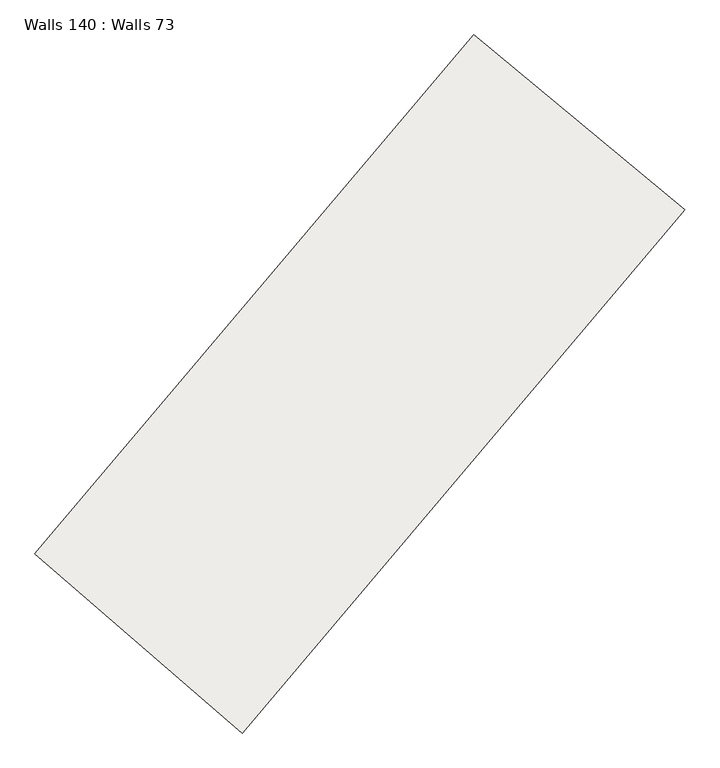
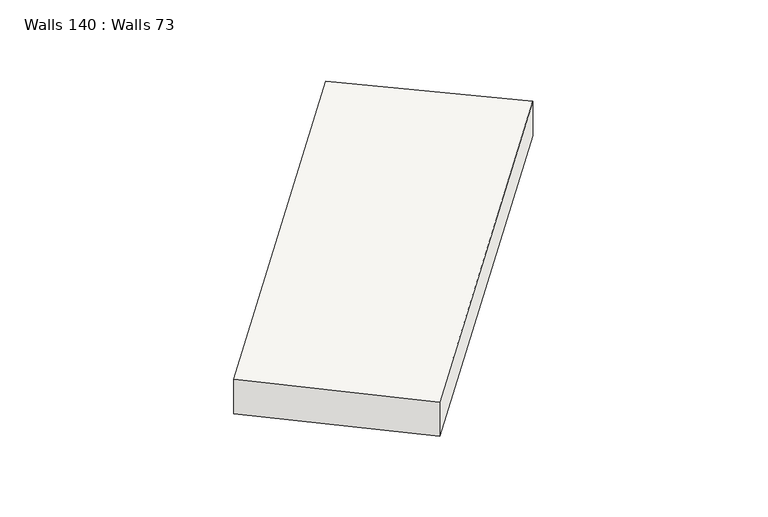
"""IFC4 building model written with IfcOpenShell, lengths in millimetres: slab geometry, Walls 140 : Walls 73."""

from ifc_helpers import new_model, si_unit, frame, origin, place, context, project, spatial, source, transform, mapped, element, save
from ifc_brep_helpers import plane_surface, spline_curve, spline_surface, advanced_brep


def walls_140_walls_73_614451f6(model_context):
    return source(origin(), model_context, "Body", "AdvancedBrep", [
        advanced_brep(
        [(51709.3079785, -100379.1228465, 638890.0), (54356.9265816, -102668.2527538, 638890.0), (54356.9265816, -102668.2527538, 639590.0), (51709.3079785, -100379.1228465, 639590.0), (57316.1780749, -93749.8258549, 638980.0), (57316.1780749, -93749.8258549, 639680.0), (60012.9551083, -95980.8331683, 639680.0), (60012.9551083, -95980.8331683, 638980.0)],
        [
            (0, 1),
            (1, 2),
            (2, 3),
            (3, 0),
            (4, 5),
            (5, 6),
            (6, 7),
            (7, 4),
            (5, 3, spline_curve(3, [(57316.1780749, -93749.8258549, 639680.0), (55471.326256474, -95979.829308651, 639649.999999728), (53602.222200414, -98189.769200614, 639620.000000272), (51709.3079785, -100379.1228465, 639590.0)], [4, 4], [0.0, 28.612478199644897])),
            (2, 6, spline_curve(3, [(54356.9265816, -102668.2527538, 639590.0), (56266.436995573, -100459.703872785, 639620.000000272), (58151.92848618, -98230.388256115, 639649.999999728), (60012.9551083, -95980.8331683, 639680.0)], [4, 4], [0.0, 28.612478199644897])),
            (4, 0, spline_curve(3, [(57316.1780749, -93749.8258549, 638980.0), (55471.326256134, -95979.829309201, 638950.000000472), (53602.222200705, -98189.769200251, 638919.999999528), (51709.3079785, -100379.1228465, 638890.0)], [4, 4], [0.0, 28.487608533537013])),
            (7, 1, spline_curve(3, [(60012.9551083, -95980.8331683, 638980.0), (58151.92848618, -98230.388256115, 638949.999999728), (56266.436995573, -100459.703872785, 638920.000000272), (54356.9265816, -102668.2527538, 638890.0)], [4, 4], [0.0, 28.612478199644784])),
        ],
        [
            plane_surface(frame((53033.1172801, -101523.6878001, 639240.0), z_axis=(-0.6540371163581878, -0.7564624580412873, 0.0), x_axis=(0.0, 0.0, 1.0))),
            plane_surface(frame((58664.5665916, -94865.3295116, 639330.0), z_axis=(0.6374306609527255, 0.7705077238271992, 0.0), x_axis=(0.7705077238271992, -0.6374306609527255, 0.0))),
            spline_surface(3, 3, [[(60012.9551083, -95980.8331683, 639680.0), (58151.928486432, -98230.388255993, 639650.0), (56266.436995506, -100459.703872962, 639620.0), (54356.9265816, -102668.2527538, 639590.0)], [(59114.029430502, -95237.164063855, 639680.0), (57258.394409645, -97480.201940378, 639650.0), (55378.365397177, -99703.058982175, 639620.0), (53474.387047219, -101905.209451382, 639590.0)], [(58215.103752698, -94493.494959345, 639680.0), (56364.860332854, -96730.015624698, 639650.0), (54490.293798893, -98946.41409134, 639620.0), (52591.847512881, -101142.166148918, 639590.0)], [(57316.1780749, -93749.8258549, 639680.0), (55471.326256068, -95979.829309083, 639650.0), (53602.222200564, -98189.769200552, 639620.0), (51709.3079785, -100379.1228465, 639590.0)]], [4, 4], [4, 4], [0.0, 11.482939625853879], [0.0, 28.612478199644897]),
            spline_surface(3, 3, [[(57316.1780749, -93749.8258549, 639680.0), (55471.326256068, -95979.829309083, 639650.0), (53602.222200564, -98189.769200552, 639620.0), (51709.3079785, -100379.1228465, 639590.0)], [(57316.1780749, -93749.8258549, 639446.666666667), (55471.326256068, -95979.829309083, 639416.666666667), (53602.222200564, -98189.769200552, 639386.666666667), (51709.3079785, -100379.1228465, 639356.666666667)], [(57316.1780749, -93749.8258549, 639213.333333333), (55471.326256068, -95979.829309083, 639183.333333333), (53602.222200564, -98189.769200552, 639153.333333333), (51709.3079785, -100379.1228465, 639123.333333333)], [(57316.1780749, -93749.8258549, 638980.0), (55471.326256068, -95979.829309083, 638950.0), (53602.222200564, -98189.769200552, 638920.0), (51709.3079785, -100379.1228465, 638890.0)]], [4, 4], [4, 4], [0.0, 2.2965879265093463], [0.0, 28.487608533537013]),
            spline_surface(3, 3, [[(57316.1780749, -93749.8258549, 638980.0), (55471.326256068, -95979.829309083, 638950.0), (53602.222200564, -98189.769200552, 638920.0), (51709.3079785, -100379.1228465, 638890.0)], [(58215.103752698, -94493.494959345, 638980.0), (56364.860332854, -96730.015624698, 638950.0), (54490.293798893, -98946.41409134, 638920.0), (52591.847512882, -101142.166148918, 638890.0)], [(59114.029430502, -95237.164063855, 638980.0), (57258.394409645, -97480.201940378, 638950.0), (55378.365397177, -99703.058982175, 638920.0), (53474.387047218, -101905.209451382, 638890.0)], [(60012.9551083, -95980.8331683, 638980.0), (58151.928486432, -98230.388255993, 638950.0), (56266.436995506, -100459.703872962, 638920.0), (54356.9265816, -102668.2527538, 638890.0)]], [4, 4], [4, 4], [0.0, 11.48293962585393], [0.0, 28.612478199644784]),
            spline_surface(3, 3, [[(60012.9551083, -95980.8331683, 638980.0), (58151.928486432, -98230.388255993, 638950.0), (56266.436995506, -100459.703872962, 638920.0), (54356.9265816, -102668.2527538, 638890.0)], [(60012.9551083, -95980.8331683, 639213.333333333), (58151.928486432, -98230.388255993, 639183.333333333), (56266.436995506, -100459.703872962, 639153.333333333), (54356.9265816, -102668.2527538, 639123.333333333)], [(60012.9551083, -95980.8331683, 639446.666666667), (58151.928486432, -98230.388255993, 639416.666666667), (56266.436995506, -100459.703872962, 639386.666666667), (54356.9265816, -102668.2527538, 639356.666666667)], [(60012.9551083, -95980.8331683, 639680.0), (58151.928486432, -98230.388255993, 639650.0), (56266.436995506, -100459.703872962, 639620.0), (54356.9265816, -102668.2527538, 639590.0)]], [4, 4], [4, 4], [0.0, 2.2965879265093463], [0.0, 28.737347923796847]),
        ],
        [
            (0, [[1, 2, 3, 4]]),
            (1, [[5, 6, 7, 8]]),
            (2, [[-6, 9, -3, 10]]),
            (3, [[-5, 11, -4, -9]]),
            (4, [[-8, 12, -1, -11]]),
            (5, [[-7, -10, -2, -12]]),
        ],
    ),
    ])


if __name__ == "__main__":
    model = new_model("IFC4")
    model_context = context("Model", 3, world=origin())
    ifc_project = project(units=[si_unit("LENGTHUNIT", "METRE", prefix="MILLI")], contexts=[model_context])
    site = spatial("IfcSite", under=ifc_project)
    building = spatial("IfcBuilding", under=site)
    placement = place(None, origin())
    walls_140_walls_73_shape = walls_140_walls_73_614451f6(model_context)
    element("IfcSlab", 1, ObjectType="Walls 140 : Walls 73", at=placement, inside=building, context=model_context, shape_type="MappedRepresentation", body=[
        mapped(walls_140_walls_73_shape, transform((0.0, 0.0, 0.0), x_axis=(1.0, 0.0, 0.0), y_axis=(0.0, 1.0, 0.0), z_axis=(0.0, 0.0, 1.0))),
    ])
    save(model, "model.ifc")
